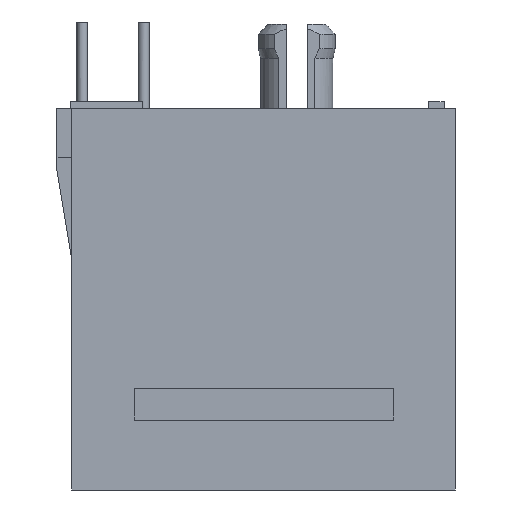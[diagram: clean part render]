
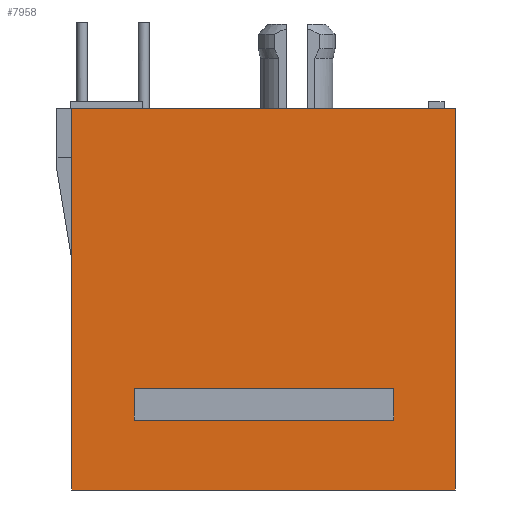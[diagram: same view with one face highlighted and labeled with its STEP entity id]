
A CAD part, left-side view. The second image highlights one B-rep face of the part: STEP entity #7958.
In plain terms, the highlighted planar face has unit normal (-1, 0, 0).
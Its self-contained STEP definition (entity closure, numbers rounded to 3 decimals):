
#1678=DIRECTION('',(0.,0.,1.));
#1679=VECTOR('',#1678,15.8);
#1680=CARTESIAN_POINT('',(-6.725,7.94,-7.9));
#1681=LINE('',#1680,#1679);
#1682=DIRECTION('',(0.,-1.,0.));
#1683=VECTOR('',#1682,15.88);
#1684=CARTESIAN_POINT('',(-6.725,7.94,7.9));
#1685=LINE('',#1684,#1683);
#1686=DIRECTION('',(0.,0.,1.));
#1687=VECTOR('',#1686,1.3);
#1688=CARTESIAN_POINT('',(-6.725,-5.39,-5.));
#1689=LINE('',#1688,#1687);
#1690=DIRECTION('',(0.,1.,0.));
#1691=VECTOR('',#1690,10.75);
#1692=CARTESIAN_POINT('',(-6.725,-5.39,-3.7));
#1693=LINE('',#1692,#1691);
#1694=DIRECTION('',(0.,0.,-1.));
#1695=VECTOR('',#1694,1.3);
#1696=CARTESIAN_POINT('',(-6.725,5.36,-3.7));
#1697=LINE('',#1696,#1695);
#1698=DIRECTION('',(0.,-1.,0.));
#1699=VECTOR('',#1698,10.75);
#1700=CARTESIAN_POINT('',(-6.725,5.36,-5.));
#1701=LINE('',#1700,#1699);
#1702=DIRECTION('',(0.,-1.,0.));
#1703=VECTOR('',#1702,15.88);
#1704=CARTESIAN_POINT('',(-6.725,7.94,-7.9));
#1705=LINE('',#1704,#1703);
#1802=DIRECTION('',(0.,0.,1.));
#1803=VECTOR('',#1802,15.8);
#1804=CARTESIAN_POINT('',(-6.725,-7.94,-7.9));
#1805=LINE('',#1804,#1803);
#5234=CARTESIAN_POINT('',(-6.725,-7.94,7.9));
#5235=VERTEX_POINT('',#5234);
#5236=CARTESIAN_POINT('',(-6.725,7.94,7.9));
#5237=VERTEX_POINT('',#5236);
#5358=CARTESIAN_POINT('',(-6.725,7.94,-7.9));
#5359=VERTEX_POINT('',#5358);
#5378=CARTESIAN_POINT('',(-6.725,-7.94,-7.9));
#5379=VERTEX_POINT('',#5378);
#5380=CARTESIAN_POINT('',(-6.725,-5.39,-5.));
#5381=CARTESIAN_POINT('',(-6.725,-5.39,-3.7));
#5382=VERTEX_POINT('',#5380);
#5383=VERTEX_POINT('',#5381);
#5384=CARTESIAN_POINT('',(-6.725,5.36,-3.7));
#5385=VERTEX_POINT('',#5384);
#5386=CARTESIAN_POINT('',(-6.725,5.36,-5.));
#5387=VERTEX_POINT('',#5386);
#7935=CARTESIAN_POINT('',(-6.725,7.94,-7.9));
#7936=DIRECTION('',(-1.,0.,0.));
#7937=DIRECTION('',(0.,-1.,0.));
#7938=AXIS2_PLACEMENT_3D('',#7935,#7936,#7937);
#7939=PLANE('',#7938);
#7941=ORIENTED_EDGE('',*,*,#7940,.F.);
#7942=ORIENTED_EDGE('',*,*,#7901,.T.);
#7943=ORIENTED_EDGE('',*,*,#7718,.T.);
#7945=ORIENTED_EDGE('',*,*,#7944,.F.);
#7946=EDGE_LOOP('',(#7941,#7942,#7943,#7945));
#7947=FACE_OUTER_BOUND('',#7946,.F.);
#7949=ORIENTED_EDGE('',*,*,#7948,.T.);
#7951=ORIENTED_EDGE('',*,*,#7950,.T.);
#7953=ORIENTED_EDGE('',*,*,#7952,.T.);
#7955=ORIENTED_EDGE('',*,*,#7954,.T.);
#7956=EDGE_LOOP('',(#7949,#7951,#7953,#7955));
#7957=FACE_BOUND('',#7956,.F.);
#7958=ADVANCED_FACE('',(#7947,#7957),#7939,.T.);
#7718=EDGE_CURVE('',#5237,#5235,#1685,.T.);
#7901=EDGE_CURVE('',#5359,#5237,#1681,.T.);
#7940=EDGE_CURVE('',#5359,#5379,#1705,.T.);
#7944=EDGE_CURVE('',#5379,#5235,#1805,.T.);
#7948=EDGE_CURVE('',#5382,#5383,#1689,.T.);
#7950=EDGE_CURVE('',#5383,#5385,#1693,.T.);
#7952=EDGE_CURVE('',#5385,#5387,#1697,.T.);
#7954=EDGE_CURVE('',#5387,#5382,#1701,.T.);
